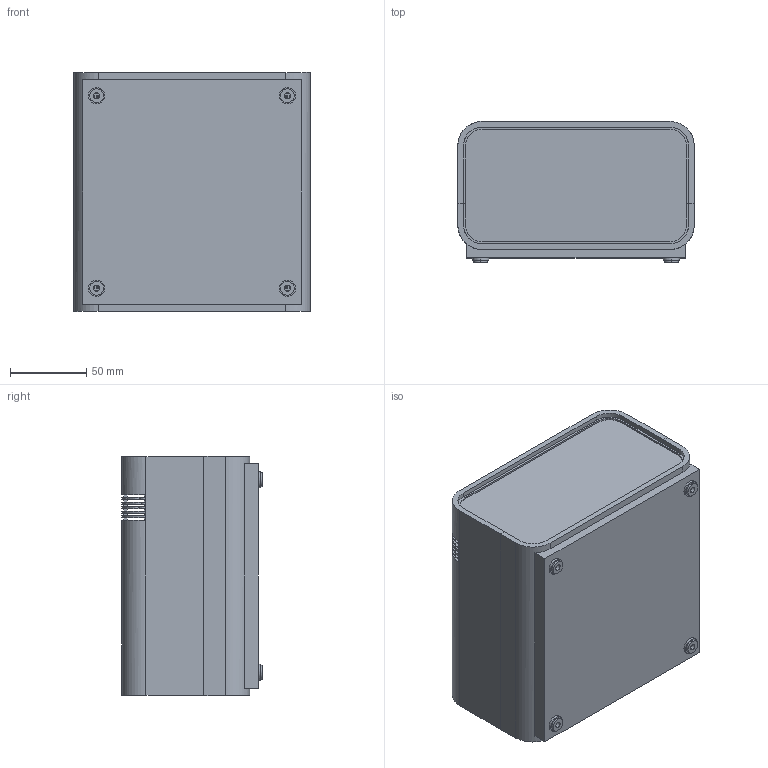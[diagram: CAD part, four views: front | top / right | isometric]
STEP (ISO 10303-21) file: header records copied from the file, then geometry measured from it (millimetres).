
FILE_DESCRIPTION (( 'STEP AP214' ), '1' );
FILE_NAME ('Conjunt PP79 B.STEP', '2016-09-22T09:36:23', ( 'aaa' ), ( '' ), 'SwSTEP 2.0', 'SolidWorks 2013', '' );
FILE_SCHEMA (( 'AUTOMOTIVE_DESIGN' ));
Length unit declared in the file: millimetre
Products named in the file (7): Cargol 3,24x24; Cargol 2,8x8; Goma; Tapeta lateral; Tapa PP79 B; Cuerpo PP79 B; Conjunt PP79 B
Assembly tree (16 placements, depth 2):
  Conjunt PP79 B
    Cuerpo PP79 B
    Tapa PP79 B
    Tapeta lateral  x2
    Goma  x4
    Cargol 2,8x8  x4
    Cargol 3,24x24  x4
Bounding box: 155 x 92.35 x 157 mm (x, y, z)
Volume: 293995.4 mm3; surface area: 225721.9 mm2
Topology: 16 solids, 16 shells, 1494 faces, 3466 edges, 2036 vertices
Faces by surface type: cone 792, plane 468, cylinder 210, torus 24
Entity records: 23323 total; most frequent: CARTESIAN_POINT 4137, DIRECTION 4087, ORIENTED_EDGE 3846, EDGE_CURVE 1923, AXIS2_PLACEMENT_3D 1412, VECTOR 1263, LINE 1263, VERTEX_POINT 1214
